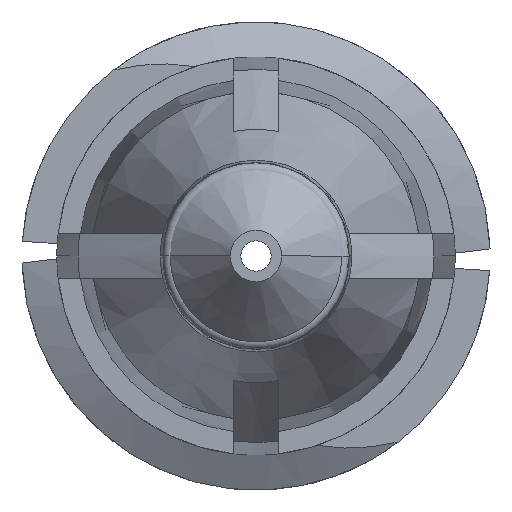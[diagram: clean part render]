
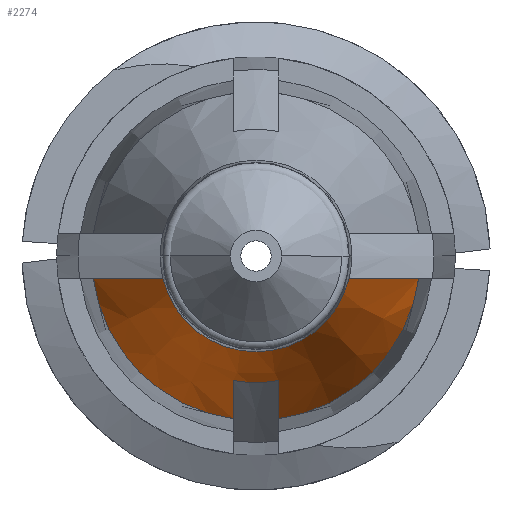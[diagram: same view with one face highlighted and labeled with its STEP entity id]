
A CAD part, front view. The second image highlights one B-rep face of the part: STEP entity #2274.
In plain terms, the highlighted conical face has half-angle 20 degrees and reference radius 2.745 mm.
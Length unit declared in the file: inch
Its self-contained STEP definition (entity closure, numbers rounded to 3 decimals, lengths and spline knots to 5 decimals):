
#15 = ORIENTED_EDGE ( 'NONE', *, *, #3085, .F. ) ;
#18 = DIRECTION ( 'NONE',  ( 0., 1., 0. ) ) ;
#48 = CARTESIAN_POINT ( 'NONE',  ( -0.015, -0.42866, -0.0987 ) ) ;
#58 = CARTESIAN_POINT ( 'NONE',  ( 0.10703, -0.406, -0.015 ) ) ;
#82 = CARTESIAN_POINT ( 'NONE',  ( -0.07664, -0.48863, -0.015 ) ) ;
#96 = CONICAL_SURFACE ( 'NONE', #1756, 0.10808, 0.349 ) ;
#160 = CARTESIAN_POINT ( 'NONE',  ( 0.015, -0.47395, -0.08198 ) ) ;
#316 = EDGE_CURVE ( 'NONE', #343, #565, #1674, .T. ) ;
#343 = VERTEX_POINT ( 'NONE', #2228 ) ;
#404 = CARTESIAN_POINT ( 'NONE',  ( 0.015, -0.42866, -0.0987 ) ) ;
#427 = B_SPLINE_CURVE_WITH_KNOTS ( 'NONE', 3,
 ( #1075, #1869, #48, #1618 ),
 .UNSPECIFIED., .F., .F.,
 ( 4, 4 ),
 ( 0.00247, 0.00431 ),
 .UNSPECIFIED. ) ;
#558 = ORIENTED_EDGE ( 'NONE', *, *, #2043, .F. ) ;
#565 = VERTEX_POINT ( 'NONE', #2597 ) ;
#604 = VERTEX_POINT ( 'NONE', #2970 ) ;
#693 = ORIENTED_EDGE ( 'NONE', *, *, #2205, .F. ) ;
#699 = DIRECTION ( 'NONE',  ( 1., 0., 0. ) ) ;
#779 = AXIS2_PLACEMENT_3D ( 'NONE', #3292, #2059, #2309 ) ;
#782 = CARTESIAN_POINT ( 'NONE',  ( -0.09185, -0.44732, -0.015 ) ) ;
#846 = EDGE_CURVE ( 'NONE', #2975, #565, #2777, .T. ) ;
#992 = CIRCLE ( 'NONE', #1103, 0.063 ) ;
#1049 = CIRCLE ( 'NONE', #1986, 0.10808 ) ;
#1055 = EDGE_CURVE ( 'NONE', #1778, #3312, #1252, .T. ) ;
#1075 = CARTESIAN_POINT ( 'NONE',  ( -0.015, -0.47395, -0.08198 ) ) ;
#1103 = AXIS2_PLACEMENT_3D ( 'NONE', #1240, #2267, #1479 ) ;
#1137 = B_SPLINE_CURVE_WITH_KNOTS ( 'NONE', 3,
 ( #1903, #2329, #2937, #58 ),
 .UNSPECIFIED., .F., .F.,
 ( 4, 4 ),
 ( 0.00282, 0.00617 ),
 .UNSPECIFIED. ) ;
#1240 = CARTESIAN_POINT ( 'NONE',  ( 0., -0.52985, 0. ) ) ;
#1252 = B_SPLINE_CURVE_WITH_KNOTS ( 'NONE', 3,
 ( #3017, #404, #2471, #160 ),
 .UNSPECIFIED., .F., .F.,
 ( 4, 4 ),
 ( 0.00343, 0.00527 ),
 .UNSPECIFIED. ) ;
#1269 = ORIENTED_EDGE ( 'NONE', *, *, #1566, .T. ) ;
#1307 = CARTESIAN_POINT ( 'NONE',  ( -0.10703, -0.406, -0.015 ) ) ;
#1479 = DIRECTION ( 'NONE',  ( 1., 0., 0. ) ) ;
#1480 = DIRECTION ( 'NONE',  ( 0., 1., 0. ) ) ;
#1566 = EDGE_CURVE ( 'NONE', #2554, #2975, #992, .T. ) ;
#1618 = CARTESIAN_POINT ( 'NONE',  ( -0.015, -0.406, -0.10703 ) ) ;
#1674 = CIRCLE ( 'NONE', #2805, 0.10808 ) ;
#1756 = AXIS2_PLACEMENT_3D ( 'NONE', #2621, #18, #3114 ) ;
#1778 = VERTEX_POINT ( 'NONE', #2422 ) ;
#1820 = FACE_OUTER_BOUND ( 'NONE', #2444, .T. ) ;
#1869 = CARTESIAN_POINT ( 'NONE',  ( -0.015, -0.45131, -0.09036 ) ) ;
#1903 = CARTESIAN_POINT ( 'NONE',  ( 0.06119, -0.52985, -0.015 ) ) ;
#1960 = CARTESIAN_POINT ( 'NONE',  ( 0., -0.406, 0. ) ) ;
#1986 = AXIS2_PLACEMENT_3D ( 'NONE', #1960, #2749, #699 ) ;
#2034 = CARTESIAN_POINT ( 'NONE',  ( 0.10703, -0.406, -0.015 ) ) ;
#2043 = EDGE_CURVE ( 'NONE', #3257, #1778, #1049, .T. ) ;
#2059 = DIRECTION ( 'NONE',  ( 0., 1., 0. ) ) ;
#2120 = CARTESIAN_POINT ( 'NONE',  ( 0., -0.406, 0. ) ) ;
#2205 = EDGE_CURVE ( 'NONE', #2554, #3257, #1137, .T. ) ;
#2228 = CARTESIAN_POINT ( 'NONE',  ( -0.015, -0.406, -0.10703 ) ) ;
#2267 = DIRECTION ( 'NONE',  ( 0., 1., 0. ) ) ;
#2274 = ADVANCED_FACE ( 'NONE', ( #1820 ), #96, .T. ) ;
#2294 = CARTESIAN_POINT ( 'NONE',  ( 0.06119, -0.52985, -0.015 ) ) ;
#2303 = CARTESIAN_POINT ( 'NONE',  ( -0.06119, -0.52985, -0.015 ) ) ;
#2309 = DIRECTION ( 'NONE',  ( -1., 0., 0. ) ) ;
#2329 = CARTESIAN_POINT ( 'NONE',  ( 0.07664, -0.48863, -0.015 ) ) ;
#2395 = CARTESIAN_POINT ( 'NONE',  ( -0.06119, -0.52985, -0.015 ) ) ;
#2414 = CIRCLE ( 'NONE', #779, 0.08335 ) ;
#2422 = CARTESIAN_POINT ( 'NONE',  ( 0.015, -0.406, -0.10703 ) ) ;
#2444 = EDGE_LOOP ( 'NONE', ( #693, #1269, #3147, #3247, #15, #2563, #3204, #558 ) ) ;
#2471 = CARTESIAN_POINT ( 'NONE',  ( 0.015, -0.45131, -0.09036 ) ) ;
#2475 = EDGE_CURVE ( 'NONE', #3312, #604, #2414, .T. ) ;
#2486 = DIRECTION ( 'NONE',  ( 1., 0., 0. ) ) ;
#2554 = VERTEX_POINT ( 'NONE', #2294 ) ;
#2563 = ORIENTED_EDGE ( 'NONE', *, *, #2475, .F. ) ;
#2588 = CARTESIAN_POINT ( 'NONE',  ( 0.015, -0.47395, -0.08198 ) ) ;
#2597 = CARTESIAN_POINT ( 'NONE',  ( -0.10703, -0.406, -0.015 ) ) ;
#2621 = CARTESIAN_POINT ( 'NONE',  ( 0., -0.406, 0. ) ) ;
#2749 = DIRECTION ( 'NONE',  ( 0., 1., 0. ) ) ;
#2777 = B_SPLINE_CURVE_WITH_KNOTS ( 'NONE', 3,
 ( #2395, #82, #782, #1307 ),
 .UNSPECIFIED., .F., .F.,
 ( 4, 4 ),
 ( 0.00282, 0.00617 ),
 .UNSPECIFIED. ) ;
#2805 = AXIS2_PLACEMENT_3D ( 'NONE', #2120, #1480, #2486 ) ;
#2937 = CARTESIAN_POINT ( 'NONE',  ( 0.09185, -0.44732, -0.015 ) ) ;
#2970 = CARTESIAN_POINT ( 'NONE',  ( -0.015, -0.47395, -0.08198 ) ) ;
#2975 = VERTEX_POINT ( 'NONE', #2303 ) ;
#3017 = CARTESIAN_POINT ( 'NONE',  ( 0.015, -0.406, -0.10703 ) ) ;
#3085 = EDGE_CURVE ( 'NONE', #604, #343, #427, .T. ) ;
#3114 = DIRECTION ( 'NONE',  ( 1., 0., 0. ) ) ;
#3147 = ORIENTED_EDGE ( 'NONE', *, *, #846, .T. ) ;
#3204 = ORIENTED_EDGE ( 'NONE', *, *, #1055, .F. ) ;
#3247 = ORIENTED_EDGE ( 'NONE', *, *, #316, .F. ) ;
#3257 = VERTEX_POINT ( 'NONE', #2034 ) ;
#3292 = CARTESIAN_POINT ( 'NONE',  ( 0., -0.47395, 0. ) ) ;
#3312 = VERTEX_POINT ( 'NONE', #2588 ) ;
